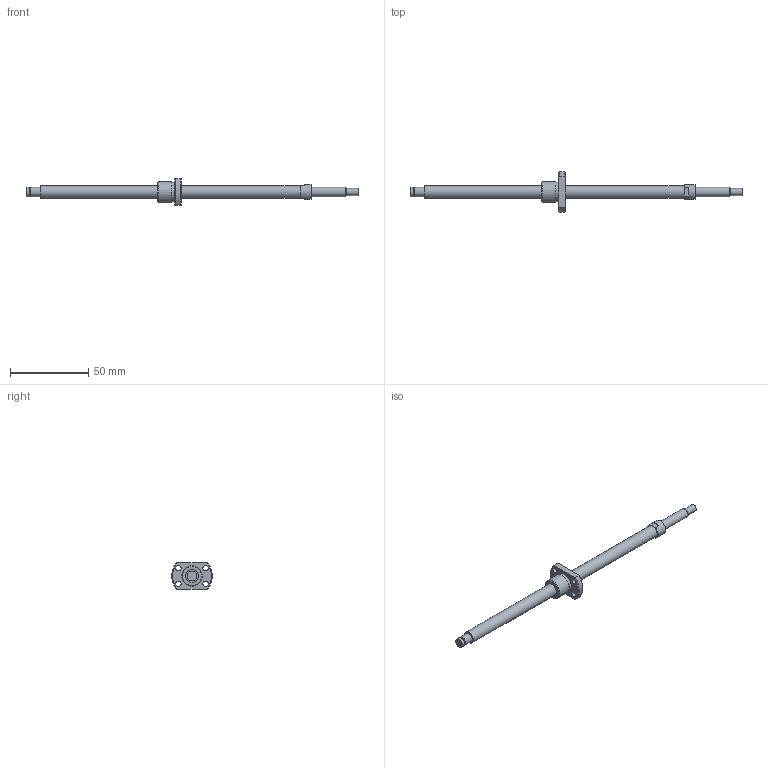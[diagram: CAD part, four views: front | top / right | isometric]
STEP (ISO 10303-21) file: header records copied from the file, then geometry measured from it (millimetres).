
FILE_DESCRIPTION(/* description */ ('STEP AP214'),/* implementation_level */ '2;1');
FILE_NAME(/* name */ 'SRT0801K-162R212C7B0X(B75Processing0X)',/* time_stamp */ '2026-08-04T19:56:25+02:00',/* author */ ('License CC BY-ND 4.0'),/* organization */ ('CADENAS'),/* preprocessor_version */ 'ST-DEVELOPER v20',/* originating_system */ 'PARTsolutions',/* authorisation */ ' ');
FILE_SCHEMA (('AUTOMOTIVE_DESIGN {1 0 10303 214 3 1 1}'));
Length unit declared in the file: millimetre
Products named in the file (3): SRT0801K-162R212C7B0X(B75Processing0X); 6BProcessing212; SR0801K_nut
Assembly tree (2 placements, depth 2):
  SRT0801K-162R212C7B0X(B75Processing0X)
    6BProcessing212
    SR0801K_nut
Bounding box: 212 x 25.92 x 17 mm (x, y, z)
Volume: 11991.9 mm3; surface area: 7142.4 mm2
Topology: 2 solids, 2 shells, 41 faces, 85 edges, 55 vertices
Faces by surface type: plane 19, cylinder 16, cone 6
Full cylindrical faces by diameter (mm): 3.4 x4, 4.5 x1, 5.7 x1, 6 x3, 8 x2, 9.5 x1, 12.6 x1, 13 x1
Entity records: 1115 total; most frequent: DIRECTION 190, CARTESIAN_POINT 190, ORIENTED_EDGE 136, AXIS2_PLACEMENT_3D 86, EDGE_LOOP 74, FACE_BOUND 74, EDGE_CURVE 68, VERTEX_POINT 54
